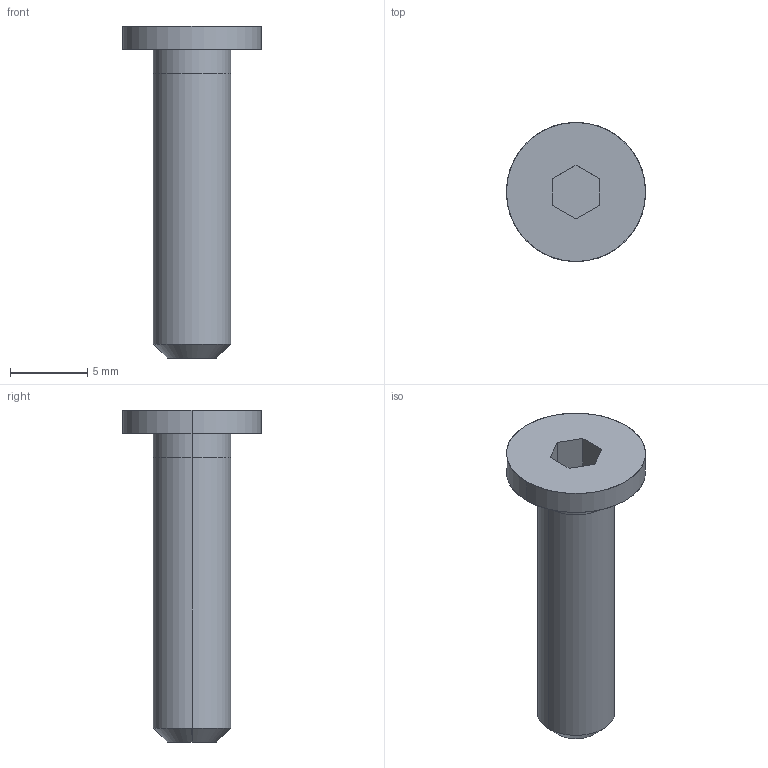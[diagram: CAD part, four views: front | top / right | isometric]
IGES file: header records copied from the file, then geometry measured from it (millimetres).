
Global section: file name: E:\UnigraphicsGraphicData\MISUMI_PRESS-PARTS\IGES\3d_cbss5-20_03481_r00.igs; native system: NX V5.0; preprocessor: UGS NX IGES V5.0; author: MISUMI; date: 20110105.160202; units: millimetre
Bounding box: 9 x 9 x 21.5 mm (x, y, z)
Surface area: 506 mm2 (no closed solid volume)
Topology: 0 solids, 0 shells, 18 faces, 100 edges, 100 vertices
Faces by surface type: bspline 18
